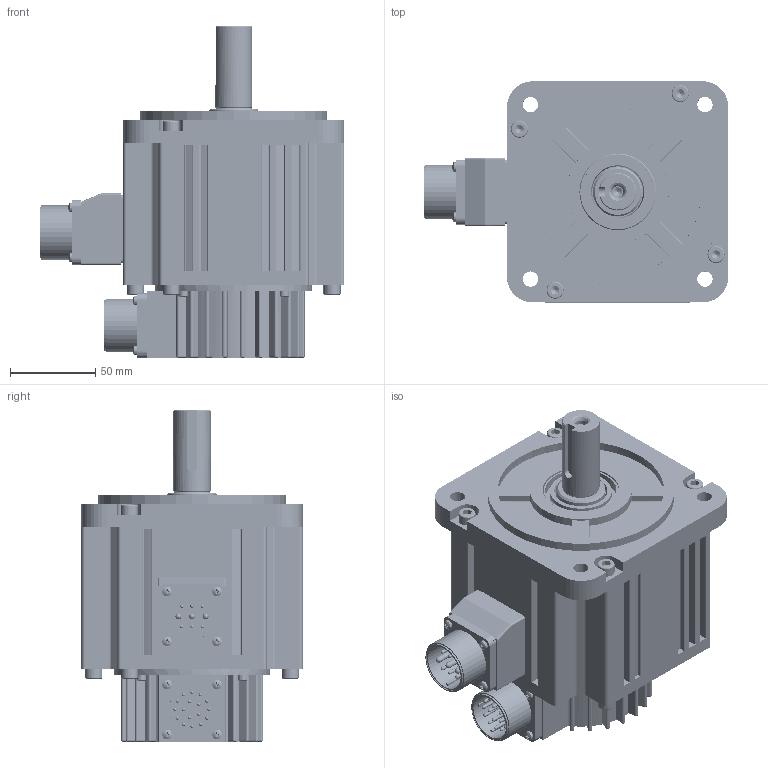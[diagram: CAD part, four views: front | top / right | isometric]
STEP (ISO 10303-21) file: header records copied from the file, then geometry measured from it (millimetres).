
FILE_DESCRIPTION((''),'2;1');
FILE_NAME('M-09E4K4A0_ASM','2019-06-13T',('zhouqs2'),(''),'CREO PARAMETRIC BY PTC INC, 2015480','CREO PARAMETRIC BY PTC INC, 2015480','');
FILE_SCHEMA(('CONFIG_CONTROL_DESIGN'));
Length unit declared in the file: millimetre
Products named in the file (20): 80D2003201; 80Q0003401; 80S2000601; ASM0001_ASM; 80D5003001; 80D2003101; 80D2000901; 80G3000501; MJ01-8033; MJ01-8041; PRT0013; 80T5001501_ASM; 80G6000101; 80G3000201; PRT0012; MJ01-8042; 80S6000401; 001_ASM; MJ01-8038; M-09E4K4A0_ASM
Assembly tree (35 placements, depth 3):
  M-09E4K4A0_ASM
    ASM0001_ASM
      80D2003201
      80Q0003401
      80S2000601
    80D5003001
    80D2003101
    80T5001501_ASM
      80D2000901
      80G3000501
      MJ01-8033  x4
      MJ01-8041  x4
      PRT0013
    001_ASM
      80G6000101
      80G3000201
      PRT0012
      MJ01-8042  x4
      80S6000401
    MJ01-8038  x8
Bounding box: 179 x 130 x 195.05 mm (x, y, z)
Volume: 518860.2 mm3; surface area: 283403.1 mm2
Topology: 31 solids, 56 shells, 5752 faces, 12556 edges, 6854 vertices
Faces by surface type: cone 2743, cylinder 2126, plane 739, sphere 118, torus 26
Entity records: 63833 total; most frequent: CARTESIAN_POINT 11869, DIRECTION 11836, ORIENTED_EDGE 10106, EDGE_CURVE 5106, AXIS2_PLACEMENT_3D 4654, VERTEX_POINT 3053, VECTOR 2528, LINE 2528
